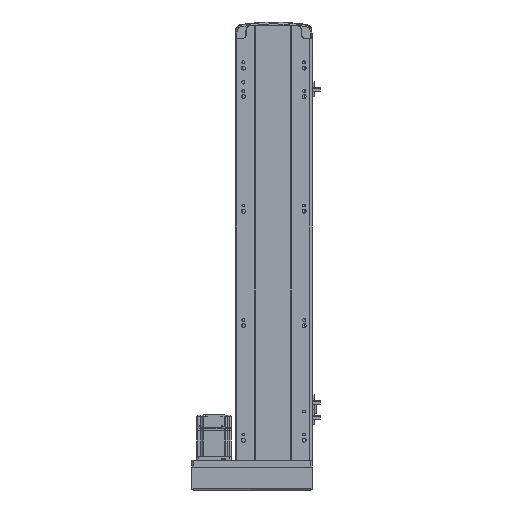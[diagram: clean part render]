
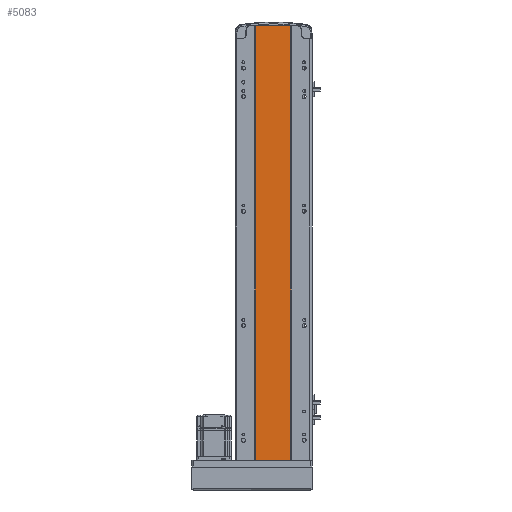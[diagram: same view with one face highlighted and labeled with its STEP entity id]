
A CAD part, front view. The second image highlights one B-rep face of the part: STEP entity #5083.
In plain terms, the highlighted planar face has unit normal (0, -1, 0).
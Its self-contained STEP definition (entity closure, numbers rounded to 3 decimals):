
#3167 = CARTESIAN_POINT ( 'NONE',  ( -32., 1., 759. ) ) ;
#5083 = ADVANCED_FACE ( 'NONE', ( #53593 ), #13796, .F. ) ;
#6354 = ORIENTED_EDGE ( 'NONE', *, *, #22303, .T. ) ;
#11662 = LINE ( 'NONE', #3167, #44282 ) ;
#12875 = CARTESIAN_POINT ( 'NONE',  ( -32., 1., 0. ) ) ;
#13796 = PLANE ( 'NONE',  #55523 ) ;
#15737 = VECTOR ( 'NONE', #40003, 1000. ) ;
#16710 = CARTESIAN_POINT ( 'NONE',  ( -32., 1., 759. ) ) ;
#17083 = VERTEX_POINT ( 'NONE', #43058 ) ;
#18893 = VERTEX_POINT ( 'NONE', #31316 ) ;
#19913 = LINE ( 'NONE', #12875, #15737 ) ;
#20841 = DIRECTION ( 'NONE',  ( 0., 0., -1. ) ) ;
#21120 = EDGE_CURVE ( 'NONE', #18893, #17083, #37782, .T. ) ;
#22303 = EDGE_CURVE ( 'NONE', #44292, #26347, #38328, .T. ) ;
#22345 = DIRECTION ( 'NONE',  ( 0., 1., 0. ) ) ;
#25063 = EDGE_LOOP ( 'NONE', ( #28490, #40962, #50582, #6354 ) ) ;
#26347 = VERTEX_POINT ( 'NONE', #38518 ) ;
#27342 = VECTOR ( 'NONE', #39183, 1000. ) ;
#28490 = ORIENTED_EDGE ( 'NONE', *, *, #56978, .T. ) ;
#31316 = CARTESIAN_POINT ( 'NONE',  ( 30., 1., 759. ) ) ;
#32742 = EDGE_CURVE ( 'NONE', #44292, #18893, #11662, .T. ) ;
#34581 = DIRECTION ( 'NONE',  ( 1., 0., 0. ) ) ;
#36934 = VECTOR ( 'NONE', #20841, 1000. ) ;
#37782 = LINE ( 'NONE', #43679, #27342 ) ;
#38328 = LINE ( 'NONE', #51451, #36934 ) ;
#38518 = CARTESIAN_POINT ( 'NONE',  ( -32., 1., 0. ) ) ;
#39183 = DIRECTION ( 'NONE',  ( 0., 0., -1. ) ) ;
#40003 = DIRECTION ( 'NONE',  ( 1., 0., 0. ) ) ;
#40962 = ORIENTED_EDGE ( 'NONE', *, *, #21120, .F. ) ;
#43058 = CARTESIAN_POINT ( 'NONE',  ( 30., 1., 0. ) ) ;
#43679 = CARTESIAN_POINT ( 'NONE',  ( 30., 1., 759. ) ) ;
#44282 = VECTOR ( 'NONE', #34581, 1000. ) ;
#44292 = VERTEX_POINT ( 'NONE', #16710 ) ;
#49258 = CARTESIAN_POINT ( 'NONE',  ( -32., 1., 759. ) ) ;
#50582 = ORIENTED_EDGE ( 'NONE', *, *, #32742, .F. ) ;
#51451 = CARTESIAN_POINT ( 'NONE',  ( -32., 1., 759. ) ) ;
#53593 = FACE_OUTER_BOUND ( 'NONE', #25063, .T. ) ;
#53866 = DIRECTION ( 'NONE',  ( -1., 0., 0. ) ) ;
#55523 = AXIS2_PLACEMENT_3D ( 'NONE', #49258, #22345, #53866 ) ;
#56978 = EDGE_CURVE ( 'NONE', #26347, #17083, #19913, .T. ) ;
